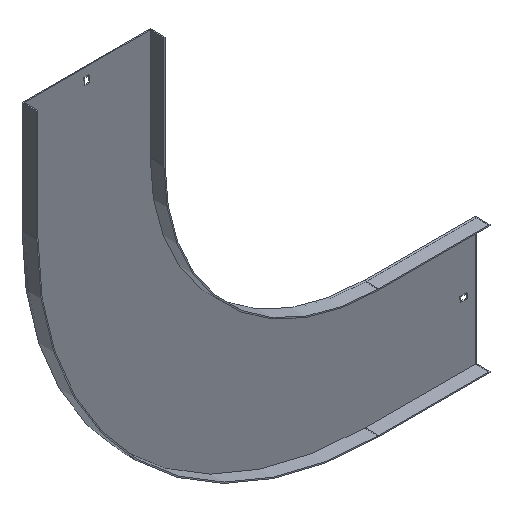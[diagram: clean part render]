
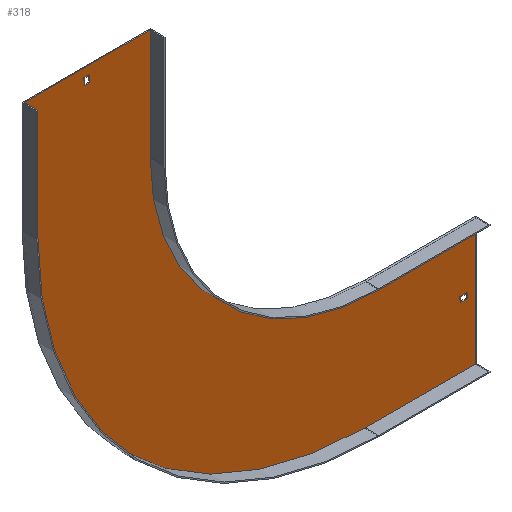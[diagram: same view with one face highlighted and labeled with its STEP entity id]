
A CAD part, isometric view. The second image highlights one B-rep face of the part: STEP entity #318.
In plain terms, the highlighted planar face has unit normal (0, -1, 0).
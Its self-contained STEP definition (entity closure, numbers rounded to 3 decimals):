
#8 = ORIENTED_EDGE ( 'NONE', *, *, #39, .F. ) ;
#13 = AXIS2_PLACEMENT_3D ( 'NONE', #122, #430, #701 ) ;
#21 = FACE_BOUND ( 'NONE', #54, .T. ) ;
#23 = CARTESIAN_POINT ( 'NONE',  ( -461.5, -1.5, 150. ) ) ;
#35 = EDGE_CURVE ( 'NONE', #781, #550, #434, .T. ) ;
#36 = ORIENTED_EDGE ( 'NONE', *, *, #186, .F. ) ;
#39 = EDGE_CURVE ( 'NONE', #653, #340, #173, .T. ) ;
#47 = EDGE_CURVE ( 'NONE', #550, #522, #696, .T. ) ;
#54 = EDGE_LOOP ( 'NONE', ( #162, #366, #215, #383 ) ) ;
#63 = EDGE_CURVE ( 'NONE', #728, #121, #770, .T. ) ;
#64 = ORIENTED_EDGE ( 'NONE', *, *, #225, .F. ) ;
#65 = CARTESIAN_POINT ( 'NONE',  ( 129., -1.5, 0. ) ) ;
#71 = ORIENTED_EDGE ( 'NONE', *, *, #35, .F. ) ;
#82 = DIRECTION ( 'NONE',  ( 0., 0., -1. ) ) ;
#91 = VERTEX_POINT ( 'NONE', #591 ) ;
#110 = LINE ( 'NONE', #687, #579 ) ;
#116 = DIRECTION ( 'NONE',  ( -1., 0., 0. ) ) ;
#121 = VERTEX_POINT ( 'NONE', #786 ) ;
#122 = CARTESIAN_POINT ( 'NONE',  ( 0., -1.5, 0. ) ) ;
#127 = VERTEX_POINT ( 'NONE', #587 ) ;
#149 = CARTESIAN_POINT ( 'NONE',  ( 0., -1.5, -371.75 ) ) ;
#159 = DIRECTION ( 'NONE',  ( 0., -1., 0. ) ) ;
#162 = ORIENTED_EDGE ( 'NONE', *, *, #807, .T. ) ;
#173 = CIRCLE ( 'NONE', #13, 460. ) ;
#180 = DIRECTION ( 'NONE',  ( 1., 0., 0. ) ) ;
#184 = CARTESIAN_POINT ( 'NONE',  ( 0., -1.5, 129. ) ) ;
#185 = DIRECTION ( 'NONE',  ( 0., 0., -1. ) ) ;
#186 = EDGE_CURVE ( 'NONE', #511, #781, #796, .T. ) ;
#194 = CARTESIAN_POINT ( 'NONE',  ( 0., -1.5, -378.25 ) ) ;
#195 = CARTESIAN_POINT ( 'NONE',  ( -460., -1.5, 150. ) ) ;
#205 = VERTEX_POINT ( 'NONE', #391 ) ;
#208 = ORIENTED_EDGE ( 'NONE', *, *, #746, .F. ) ;
#209 = CARTESIAN_POINT ( 'NONE',  ( -378.25, -1.5, 138. ) ) ;
#214 = CARTESIAN_POINT ( 'NONE',  ( 0., -1.5, -290. ) ) ;
#215 = ORIENTED_EDGE ( 'NONE', *, *, #63, .T. ) ;
#216 = VECTOR ( 'NONE', #529, 1000. ) ;
#223 = CARTESIAN_POINT ( 'NONE',  ( 150., -1.5, -460. ) ) ;
#224 = LINE ( 'NONE', #287, #659 ) ;
#225 = EDGE_CURVE ( 'NONE', #629, #772, #800, .T. ) ;
#227 = CARTESIAN_POINT ( 'NONE',  ( 0., -1.5, 0. ) ) ;
#233 = VECTOR ( 'NONE', #359, 1000. ) ;
#248 = DIRECTION ( 'NONE',  ( 0., -1., 0. ) ) ;
#251 = CARTESIAN_POINT ( 'NONE',  ( 138., -1.5, 0. ) ) ;
#266 = EDGE_CURVE ( 'NONE', #205, #629, #518, .T. ) ;
#277 = CARTESIAN_POINT ( 'NONE',  ( 129., -1.5, -371.75 ) ) ;
#279 = CARTESIAN_POINT ( 'NONE',  ( -290., -1.5, 150. ) ) ;
#287 = CARTESIAN_POINT ( 'NONE',  ( -460., -1.5, 0. ) ) ;
#304 = VERTEX_POINT ( 'NONE', #209 ) ;
#318 = ADVANCED_FACE ( 'NONE', ( #744, #811, #21 ), #547, .T. ) ;
#340 = VERTEX_POINT ( 'NONE', #474 ) ;
#345 = DIRECTION ( 'NONE',  ( 0., 0., -1. ) ) ;
#346 = EDGE_CURVE ( 'NONE', #127, #728, #537, .T. ) ;
#348 = DIRECTION ( 'NONE',  ( -1., 0., 0. ) ) ;
#350 = DIRECTION ( 'NONE',  ( 0., 0., 1. ) ) ;
#351 = VECTOR ( 'NONE', #818, 1000. ) ;
#356 = LINE ( 'NONE', #23, #351 ) ;
#359 = DIRECTION ( 'NONE',  ( 1., 0., 0. ) ) ;
#364 = CARTESIAN_POINT ( 'NONE',  ( -378.25, -1.5, 0. ) ) ;
#366 = ORIENTED_EDGE ( 'NONE', *, *, #346, .T. ) ;
#375 = DIRECTION ( 'NONE',  ( -1., 0., 0. ) ) ;
#379 = LINE ( 'NONE', #446, #675 ) ;
#381 = EDGE_CURVE ( 'NONE', #340, #634, #224, .T. ) ;
#383 = ORIENTED_EDGE ( 'NONE', *, *, #455, .T. ) ;
#384 = ORIENTED_EDGE ( 'NONE', *, *, #491, .F. ) ;
#389 = CARTESIAN_POINT ( 'NONE',  ( -371.75, -1.5, 129. ) ) ;
#391 = CARTESIAN_POINT ( 'NONE',  ( 0., -1.5, -290. ) ) ;
#401 = ORIENTED_EDGE ( 'NONE', *, *, #266, .F. ) ;
#406 = CARTESIAN_POINT ( 'NONE',  ( 129., -1.5, -378.25 ) ) ;
#412 = CIRCLE ( 'NONE', #717, 290. ) ;
#413 = ORIENTED_EDGE ( 'NONE', *, *, #635, .F. ) ;
#430 = DIRECTION ( 'NONE',  ( 0., 1., 0. ) ) ;
#432 = ORIENTED_EDGE ( 'NONE', *, *, #841, .F. ) ;
#434 = LINE ( 'NONE', #194, #451 ) ;
#438 = VECTOR ( 'NONE', #506, 1000. ) ;
#446 = CARTESIAN_POINT ( 'NONE',  ( -290., -1.5, 150. ) ) ;
#451 = VECTOR ( 'NONE', #180, 1000. ) ;
#455 = EDGE_CURVE ( 'NONE', #121, #304, #741, .T. ) ;
#464 = DIRECTION ( 'NONE',  ( 1., 0., 0. ) ) ;
#465 = VECTOR ( 'NONE', #464, 1000. ) ;
#474 = CARTESIAN_POINT ( 'NONE',  ( -460., -1.5, 0. ) ) ;
#491 = EDGE_CURVE ( 'NONE', #634, #759, #356, .T. ) ;
#497 = VECTOR ( 'NONE', #116, 1000. ) ;
#506 = DIRECTION ( 'NONE',  ( 0., 0., 1. ) ) ;
#507 = CARTESIAN_POINT ( 'NONE',  ( 0., -1.5, 0. ) ) ;
#511 = VERTEX_POINT ( 'NONE', #277 ) ;
#518 = LINE ( 'NONE', #214, #465 ) ;
#522 = VERTEX_POINT ( 'NONE', #808 ) ;
#529 = DIRECTION ( 'NONE',  ( 0., 0., -1. ) ) ;
#537 = LINE ( 'NONE', #752, #538 ) ;
#538 = VECTOR ( 'NONE', #82, 1000. ) ;
#546 = CARTESIAN_POINT ( 'NONE',  ( 0., -1.5, -460. ) ) ;
#547 = PLANE ( 'NONE',  #688 ) ;
#549 = ORIENTED_EDGE ( 'NONE', *, *, #642, .F. ) ;
#550 = VERTEX_POINT ( 'NONE', #562 ) ;
#562 = CARTESIAN_POINT ( 'NONE',  ( 138., -1.5, -378.25 ) ) ;
#579 = VECTOR ( 'NONE', #375, 1000. ) ;
#587 = CARTESIAN_POINT ( 'NONE',  ( -371.75, -1.5, 138. ) ) ;
#591 = CARTESIAN_POINT ( 'NONE',  ( -290., -1.5, 0. ) ) ;
#594 = ORIENTED_EDGE ( 'NONE', *, *, #47, .F. ) ;
#596 = CARTESIAN_POINT ( 'NONE',  ( 150., -1.5, -288.5 ) ) ;
#602 = VECTOR ( 'NONE', #861, 1000. ) ;
#614 = EDGE_LOOP ( 'NONE', ( #208, #594, #71, #36 ) ) ;
#621 = DIRECTION ( 'NONE',  ( 0., 0., 1. ) ) ;
#625 = LINE ( 'NONE', #631, #233 ) ;
#629 = VERTEX_POINT ( 'NONE', #839 ) ;
#631 = CARTESIAN_POINT ( 'NONE',  ( 0., -1.5, 138. ) ) ;
#634 = VERTEX_POINT ( 'NONE', #195 ) ;
#635 = EDGE_CURVE ( 'NONE', #91, #205, #412, .T. ) ;
#642 = EDGE_CURVE ( 'NONE', #759, #91, #379, .T. ) ;
#653 = VERTEX_POINT ( 'NONE', #546 ) ;
#659 = VECTOR ( 'NONE', #350, 1000. ) ;
#675 = VECTOR ( 'NONE', #710, 1000. ) ;
#687 = CARTESIAN_POINT ( 'NONE',  ( 150., -1.5, -460. ) ) ;
#688 = AXIS2_PLACEMENT_3D ( 'NONE', #227, #159, #345 ) ;
#696 = LINE ( 'NONE', #251, #438 ) ;
#701 = DIRECTION ( 'NONE',  ( 0., 0., -1. ) ) ;
#710 = DIRECTION ( 'NONE',  ( 0., 0., -1. ) ) ;
#717 = AXIS2_PLACEMENT_3D ( 'NONE', #507, #248, #185 ) ;
#728 = VERTEX_POINT ( 'NONE', #389 ) ;
#741 = LINE ( 'NONE', #364, #804 ) ;
#744 = FACE_BOUND ( 'NONE', #614, .T. ) ;
#746 = EDGE_CURVE ( 'NONE', #522, #511, #815, .T. ) ;
#752 = CARTESIAN_POINT ( 'NONE',  ( -371.75, -1.5, 0. ) ) ;
#759 = VERTEX_POINT ( 'NONE', #279 ) ;
#770 = LINE ( 'NONE', #184, #497 ) ;
#772 = VERTEX_POINT ( 'NONE', #223 ) ;
#781 = VERTEX_POINT ( 'NONE', #406 ) ;
#786 = CARTESIAN_POINT ( 'NONE',  ( -378.25, -1.5, 129. ) ) ;
#788 = EDGE_LOOP ( 'NONE', ( #384, #840, #8, #432, #64, #401, #413, #549 ) ) ;
#796 = LINE ( 'NONE', #65, #216 ) ;
#800 = LINE ( 'NONE', #596, #602 ) ;
#804 = VECTOR ( 'NONE', #621, 1000. ) ;
#807 = EDGE_CURVE ( 'NONE', #304, #127, #625, .T. ) ;
#808 = CARTESIAN_POINT ( 'NONE',  ( 138., -1.5, -371.75 ) ) ;
#811 = FACE_OUTER_BOUND ( 'NONE', #788, .T. ) ;
#815 = LINE ( 'NONE', #149, #862 ) ;
#818 = DIRECTION ( 'NONE',  ( 1., 0., 0. ) ) ;
#839 = CARTESIAN_POINT ( 'NONE',  ( 150., -1.5, -290. ) ) ;
#840 = ORIENTED_EDGE ( 'NONE', *, *, #381, .F. ) ;
#841 = EDGE_CURVE ( 'NONE', #772, #653, #110, .T. ) ;
#861 = DIRECTION ( 'NONE',  ( 0., 0., -1. ) ) ;
#862 = VECTOR ( 'NONE', #348, 1000. ) ;
